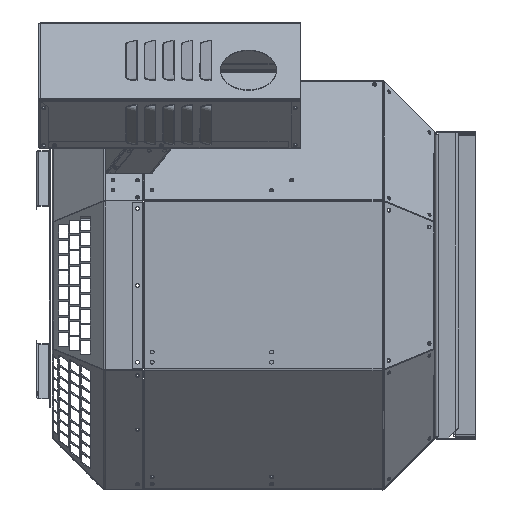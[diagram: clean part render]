
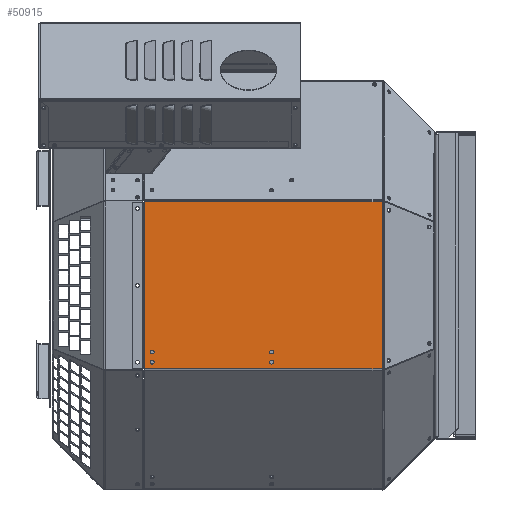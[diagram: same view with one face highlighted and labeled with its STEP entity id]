
A CAD part, left-side view. The second image highlights one B-rep face of the part: STEP entity #50915.
In plain terms, the highlighted planar face has unit normal (-1, 0, 0).
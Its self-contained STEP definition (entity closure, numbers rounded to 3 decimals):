
#46 = CARTESIAN_POINT ( 'NONE',  ( -226., 320.763, 93.198 ) ) ;
#352 = LINE ( 'NONE', #28146, #16437 ) ;
#742 = CARTESIAN_POINT ( 'NONE',  ( -226., 180.147, -71.61 ) ) ;
#990 = ORIENTED_EDGE ( 'NONE', *, *, #75765, .T. ) ;
#1015 = CARTESIAN_POINT ( 'NONE',  ( -226., 311.927, -84.818 ) ) ;
#1018 = VERTEX_POINT ( 'NONE', #54179 ) ;
#1551 = CARTESIAN_POINT ( 'NONE',  ( -226., 180.147, -73.71 ) ) ;
#2897 = AXIS2_PLACEMENT_3D ( 'NONE', #21256, #69211, #28151 ) ;
#3368 = FACE_BOUND ( 'NONE', #70413, .T. ) ;
#3515 = AXIS2_PLACEMENT_3D ( 'NONE', #60013, #18951, #66865 ) ;
#6392 = ORIENTED_EDGE ( 'NONE', *, *, #40169, .F. ) ;
#6627 = ORIENTED_EDGE ( 'NONE', *, *, #38203, .F. ) ;
#6864 = DIRECTION ( 'NONE',  ( 0., 0., 1. ) ) ;
#7422 = CARTESIAN_POINT ( 'NONE',  ( -226., 320.755, -92.287 ) ) ;
#7928 = DIRECTION ( 'NONE',  ( 0., 0., 1. ) ) ;
#8047 = CIRCLE ( 'NONE', #45388, 2.1 ) ;
#8370 = CARTESIAN_POINT ( 'NONE',  ( -226., 334.155, -92.287 ) ) ;
#8457 = DIRECTION ( 'NONE',  ( 0., 0., 1. ) ) ;
#8584 = VERTEX_POINT ( 'NONE', #7422 ) ;
#10226 = VECTOR ( 'NONE', #20757, 1000. ) ;
#10465 = EDGE_CURVE ( 'NONE', #64270, #34292, #78590, .T. ) ;
#11210 = EDGE_CURVE ( 'NONE', #23853, #48397, #59151, .T. ) ;
#11574 = VERTEX_POINT ( 'NONE', #67823 ) ;
#11727 = CARTESIAN_POINT ( 'NONE',  ( -226., 320.755, -91.837 ) ) ;
#11895 = VERTEX_POINT ( 'NONE', #15846 ) ;
#13134 = VECTOR ( 'NONE', #63963, 1000. ) ;
#13246 = CARTESIAN_POINT ( 'NONE',  ( -226., 58.185, -92.287 ) ) ;
#15470 = CARTESIAN_POINT ( 'NONE',  ( -226., 311.927, -75.81 ) ) ;
#15846 = CARTESIAN_POINT ( 'NONE',  ( -226., 320.755, 92.287 ) ) ;
#16437 = VECTOR ( 'NONE', #41636, 1000. ) ;
#17002 = EDGE_CURVE ( 'NONE', #11895, #19432, #49583, .T. ) ;
#18182 = PLANE ( 'NONE',  #39000 ) ;
#18804 = ORIENTED_EDGE ( 'NONE', *, *, #17002, .T. ) ;
#18951 = DIRECTION ( 'NONE',  ( -1., 0., 0. ) ) ;
#19432 = VERTEX_POINT ( 'NONE', #73580 ) ;
#20577 = EDGE_CURVE ( 'NONE', #63579, #1018, #74682, .T. ) ;
#20757 = DIRECTION ( 'NONE',  ( 0., 0., 1. ) ) ;
#21256 = CARTESIAN_POINT ( 'NONE',  ( -226., 180.147, -84.818 ) ) ;
#21547 = CARTESIAN_POINT ( 'NONE',  ( -226., 311.927, -73.71 ) ) ;
#22146 = EDGE_LOOP ( 'NONE', ( #48030, #47736 ) ) ;
#23853 = VERTEX_POINT ( 'NONE', #51114 ) ;
#24378 = ORIENTED_EDGE ( 'NONE', *, *, #66231, .F. ) ;
#25283 = EDGE_CURVE ( 'NONE', #11574, #75295, #55278, .T. ) ;
#25356 = VERTEX_POINT ( 'NONE', #69946 ) ;
#25619 = ORIENTED_EDGE ( 'NONE', *, *, #25283, .F. ) ;
#25864 = VERTEX_POINT ( 'NONE', #13246 ) ;
#27060 = EDGE_LOOP ( 'NONE', ( #6627, #25619 ) ) ;
#27615 = ORIENTED_EDGE ( 'NONE', *, *, #20577, .F. ) ;
#28146 = CARTESIAN_POINT ( 'NONE',  ( -226., 58.185, 93.198 ) ) ;
#28151 = DIRECTION ( 'NONE',  ( 0., 0., 1. ) ) ;
#28154 = CARTESIAN_POINT ( 'NONE',  ( -226., 311.927, -84.818 ) ) ;
#28430 = DIRECTION ( 'NONE',  ( 0., 0., 1. ) ) ;
#28620 = DIRECTION ( 'NONE',  ( 0., 1., 0. ) ) ;
#28626 = DIRECTION ( 'NONE',  ( 0., -1., 0. ) ) ;
#28956 = EDGE_CURVE ( 'NONE', #11895, #53297, #36644, .T. ) ;
#29236 = AXIS2_PLACEMENT_3D ( 'NONE', #28154, #76138, #35049 ) ;
#30024 = DIRECTION ( 'NONE',  ( -1., 0., 0. ) ) ;
#30661 = EDGE_LOOP ( 'NONE', ( #24378, #88292, #65323, #83598, #82882, #62189, #18804, #990 ) ) ;
#32902 = CARTESIAN_POINT ( 'NONE',  ( -226., 180.147, -86.918 ) ) ;
#34292 = VERTEX_POINT ( 'NONE', #32902 ) ;
#35049 = DIRECTION ( 'NONE',  ( 0., 0., 1. ) ) ;
#35219 = CARTESIAN_POINT ( 'NONE',  ( -226., 334.155, 91.837 ) ) ;
#35607 = EDGE_CURVE ( 'NONE', #25356, #73988, #79481, .T. ) ;
#36151 = DIRECTION ( 'NONE',  ( 0., -1., 0. ) ) ;
#36644 = LINE ( 'NONE', #84174, #40978 ) ;
#37678 = FACE_OUTER_BOUND ( 'NONE', #30661, .T. ) ;
#37780 = VERTEX_POINT ( 'NONE', #42134 ) ;
#38203 = EDGE_CURVE ( 'NONE', #75295, #11574, #61990, .T. ) ;
#38314 = EDGE_CURVE ( 'NONE', #8584, #25864, #57691, .T. ) ;
#38862 = DIRECTION ( 'NONE',  ( -1., 0., 0. ) ) ;
#39000 = AXIS2_PLACEMENT_3D ( 'NONE', #79955, #38862, #86862 ) ;
#39422 = VECTOR ( 'NONE', #76725, 1000. ) ;
#39844 = FACE_BOUND ( 'NONE', #27060, .T. ) ;
#39988 = CIRCLE ( 'NONE', #63264, 2.1 ) ;
#40169 = EDGE_CURVE ( 'NONE', #73988, #25356, #8047, .T. ) ;
#40978 = VECTOR ( 'NONE', #36151, 1000. ) ;
#41258 = EDGE_CURVE ( 'NONE', #1018, #63579, #44315, .T. ) ;
#41636 = DIRECTION ( 'NONE',  ( 0., 0., -1. ) ) ;
#42134 = CARTESIAN_POINT ( 'NONE',  ( -226., 320.763, 91.837 ) ) ;
#43425 = ORIENTED_EDGE ( 'NONE', *, *, #35607, .F. ) ;
#44315 = CIRCLE ( 'NONE', #3515, 2.1 ) ;
#44421 = LINE ( 'NONE', #44843, #60570 ) ;
#44843 = CARTESIAN_POINT ( 'NONE',  ( -226., 320.755, -94.837 ) ) ;
#45388 = AXIS2_PLACEMENT_3D ( 'NONE', #1551, #49522, #8457 ) ;
#45452 = AXIS2_PLACEMENT_3D ( 'NONE', #1015, #48965, #7928 ) ;
#46145 = CARTESIAN_POINT ( 'NONE',  ( -226., 180.147, -82.718 ) ) ;
#47736 = ORIENTED_EDGE ( 'NONE', *, *, #68717, .F. ) ;
#47911 = DIRECTION ( 'NONE',  ( -1., 0., 0. ) ) ;
#48030 = ORIENTED_EDGE ( 'NONE', *, *, #10465, .F. ) ;
#48397 = VERTEX_POINT ( 'NONE', #11727 ) ;
#48667 = EDGE_CURVE ( 'NONE', #53297, #25864, #352, .T. ) ;
#48965 = DIRECTION ( 'NONE',  ( -1., 0., 0. ) ) ;
#49522 = DIRECTION ( 'NONE',  ( -1., 0., 0. ) ) ;
#49583 = LINE ( 'NONE', #57116, #13134 ) ;
#50389 = AXIS2_PLACEMENT_3D ( 'NONE', #89032, #47911, #6864 ) ;
#50915 = ADVANCED_FACE ( 'NONE', ( #74178, #3368, #39844, #55957, #37678 ), #18182, .T. ) ;
#50988 = VECTOR ( 'NONE', #28620, 1000. ) ;
#51114 = CARTESIAN_POINT ( 'NONE',  ( -226., 320.763, -91.837 ) ) ;
#51299 = CARTESIAN_POINT ( 'NONE',  ( -226., 58.185, 92.287 ) ) ;
#51748 = DIRECTION ( 'NONE',  ( 0., 0., -1. ) ) ;
#53297 = VERTEX_POINT ( 'NONE', #51299 ) ;
#54179 = CARTESIAN_POINT ( 'NONE',  ( -226., 311.927, -71.61 ) ) ;
#55278 = CIRCLE ( 'NONE', #45452, 2.1 ) ;
#55957 = FACE_BOUND ( 'NONE', #57769, .T. ) ;
#57116 = CARTESIAN_POINT ( 'NONE',  ( -226., 320.755, 94.837 ) ) ;
#57691 = LINE ( 'NONE', #8370, #39422 ) ;
#57769 = EDGE_LOOP ( 'NONE', ( #58797, #27615 ) ) ;
#58797 = ORIENTED_EDGE ( 'NONE', *, *, #41258, .F. ) ;
#59151 = LINE ( 'NONE', #69685, #61288 ) ;
#60013 = CARTESIAN_POINT ( 'NONE',  ( -226., 311.927, -73.71 ) ) ;
#60570 = VECTOR ( 'NONE', #51748, 1000. ) ;
#61288 = VECTOR ( 'NONE', #28626, 1000. ) ;
#61990 = CIRCLE ( 'NONE', #29236, 2.1 ) ;
#62189 = ORIENTED_EDGE ( 'NONE', *, *, #28956, .F. ) ;
#63264 = AXIS2_PLACEMENT_3D ( 'NONE', #71118, #30024, #78025 ) ;
#63579 = VERTEX_POINT ( 'NONE', #15470 ) ;
#63963 = DIRECTION ( 'NONE',  ( 0., 0., -1. ) ) ;
#64270 = VERTEX_POINT ( 'NONE', #46145 ) ;
#65323 = ORIENTED_EDGE ( 'NONE', *, *, #78878, .T. ) ;
#66231 = EDGE_CURVE ( 'NONE', #23853, #37780, #67045, .T. ) ;
#66865 = DIRECTION ( 'NONE',  ( 0., 0., 1. ) ) ;
#67045 = LINE ( 'NONE', #46, #10226 ) ;
#67823 = CARTESIAN_POINT ( 'NONE',  ( -226., 311.927, -86.918 ) ) ;
#68717 = EDGE_CURVE ( 'NONE', #34292, #64270, #39988, .T. ) ;
#68905 = CARTESIAN_POINT ( 'NONE',  ( -226., 311.927, -82.718 ) ) ;
#69211 = DIRECTION ( 'NONE',  ( -1., 0., 0. ) ) ;
#69486 = DIRECTION ( 'NONE',  ( -1., 0., 0. ) ) ;
#69685 = CARTESIAN_POINT ( 'NONE',  ( -226., 334.155, -91.837 ) ) ;
#69946 = CARTESIAN_POINT ( 'NONE',  ( -226., 180.147, -75.81 ) ) ;
#70413 = EDGE_LOOP ( 'NONE', ( #6392, #43425 ) ) ;
#71118 = CARTESIAN_POINT ( 'NONE',  ( -226., 180.147, -84.818 ) ) ;
#73580 = CARTESIAN_POINT ( 'NONE',  ( -226., 320.755, 91.837 ) ) ;
#73988 = VERTEX_POINT ( 'NONE', #742 ) ;
#74178 = FACE_BOUND ( 'NONE', #22146, .T. ) ;
#74682 = CIRCLE ( 'NONE', #86073, 2.1 ) ;
#75295 = VERTEX_POINT ( 'NONE', #68905 ) ;
#75765 = EDGE_CURVE ( 'NONE', #19432, #37780, #87525, .T. ) ;
#76138 = DIRECTION ( 'NONE',  ( -1., 0., 0. ) ) ;
#76725 = DIRECTION ( 'NONE',  ( 0., -1., 0. ) ) ;
#78025 = DIRECTION ( 'NONE',  ( 0., 0., 1. ) ) ;
#78590 = CIRCLE ( 'NONE', #2897, 2.1 ) ;
#78878 = EDGE_CURVE ( 'NONE', #48397, #8584, #44421, .T. ) ;
#79481 = CIRCLE ( 'NONE', #50389, 2.1 ) ;
#79955 = CARTESIAN_POINT ( 'NONE',  ( -226., 334.155, 93.198 ) ) ;
#82882 = ORIENTED_EDGE ( 'NONE', *, *, #48667, .F. ) ;
#83598 = ORIENTED_EDGE ( 'NONE', *, *, #38314, .T. ) ;
#84174 = CARTESIAN_POINT ( 'NONE',  ( -226., 334.155, 92.287 ) ) ;
#86073 = AXIS2_PLACEMENT_3D ( 'NONE', #21547, #69486, #28430 ) ;
#86862 = DIRECTION ( 'NONE',  ( 0., 0., 1. ) ) ;
#87525 = LINE ( 'NONE', #35219, #50988 ) ;
#88292 = ORIENTED_EDGE ( 'NONE', *, *, #11210, .T. ) ;
#89032 = CARTESIAN_POINT ( 'NONE',  ( -226., 180.147, -73.71 ) ) ;
